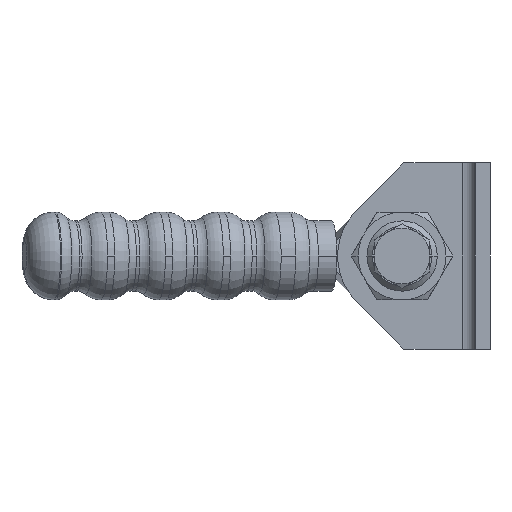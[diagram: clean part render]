
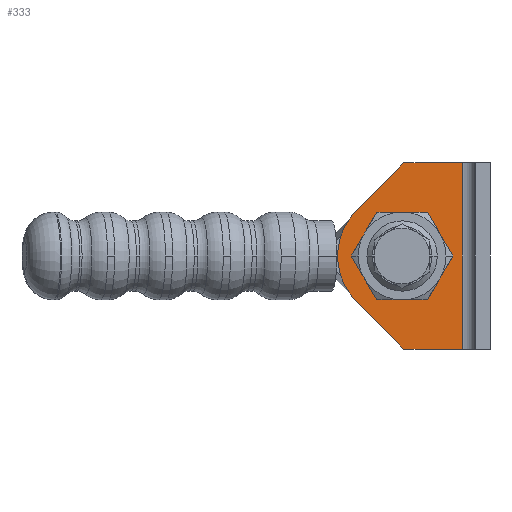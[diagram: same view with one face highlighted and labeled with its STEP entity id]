
A CAD part, left-side view. The second image highlights one B-rep face of the part: STEP entity #333.
In plain terms, the highlighted planar face has unit normal (-1, 0, 0).
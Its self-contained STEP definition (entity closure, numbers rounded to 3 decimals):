
#333 = ADVANCED_FACE( '', ( #703, #704 ), #705, .F. );
#703 = FACE_OUTER_BOUND( '', #1455, .T. );
#704 = FACE_BOUND( '', #1456, .T. );
#705 = PLANE( '', #1457 );
#1455 = EDGE_LOOP( '', ( #2314, #2315, #2316, #2317, #2318, #2319 ) );
#1456 = EDGE_LOOP( '', ( #2320, #2321 ) );
#1457 = AXIS2_PLACEMENT_3D( '', #2322, #2323, #2324 );
#2314 = ORIENTED_EDGE( '', *, *, #4970, .F. );
#2315 = ORIENTED_EDGE( '', *, *, #4971, .F. );
#2316 = ORIENTED_EDGE( '', *, *, #4959, .F. );
#2317 = ORIENTED_EDGE( '', *, *, #4963, .F. );
#2318 = ORIENTED_EDGE( '', *, *, #4966, .F. );
#2319 = ORIENTED_EDGE( '', *, *, #4972, .F. );
#2320 = ORIENTED_EDGE( '', *, *, #4956, .T. );
#2321 = ORIENTED_EDGE( '', *, *, #4918, .T. );
#2322 = CARTESIAN_POINT( '', ( 0., 0., 0. ) );
#2323 = DIRECTION( '', ( 1., 0., 0. ) );
#2324 = DIRECTION( '', ( 0., 0., -1. ) );
#4918 = EDGE_CURVE( '', #5810, #5807, #5811, .T. );
#4956 = EDGE_CURVE( '', #5807, #5810, #5874, .T. );
#4959 = EDGE_CURVE( '', #5878, #5880, #5881, .T. );
#4963 = EDGE_CURVE( '', #5885, #5878, #5887, .T. );
#4966 = EDGE_CURVE( '', #5890, #5885, #5892, .T. );
#4970 = EDGE_CURVE( '', #5898, #5899, #5900, .T. );
#4971 = EDGE_CURVE( '', #5880, #5898, #5901, .T. );
#4972 = EDGE_CURVE( '', #5899, #5890, #5902, .T. );
#5807 = VERTEX_POINT( '', #7208 );
#5810 = VERTEX_POINT( '', #7212 );
#5811 = CIRCLE( '', #7213, 12.7 );
#5874 = CIRCLE( '', #7303, 12.7 );
#5878 = VERTEX_POINT( '', #7308 );
#5880 = VERTEX_POINT( '', #7311 );
#5881 = LINE( '', #7312, #7313 );
#5885 = VERTEX_POINT( '', #7318 );
#5887 = CIRCLE( '', #7321, 22. );
#5890 = VERTEX_POINT( '', #7325 );
#5892 = LINE( '', #7328, #7329 );
#5898 = VERTEX_POINT( '', #7338 );
#5899 = VERTEX_POINT( '', #7339 );
#5900 = LINE( '', #7340, #7341 );
#5901 = LINE( '', #7342, #7343 );
#5902 = LINE( '', #7344, #7345 );
#7208 = CARTESIAN_POINT( '', ( 0., 0., -12.7 ) );
#7212 = CARTESIAN_POINT( '', ( 0., 0., 12.7 ) );
#7213 = AXIS2_PLACEMENT_3D( '', #9974, #9975, #9976 );
#7303 = AXIS2_PLACEMENT_3D( '', #10034, #10035, #10036 );
#7308 = CARTESIAN_POINT( '', ( 0., 15.556, 15.556 ) );
#7311 = CARTESIAN_POINT( '', ( 0., -0.637, 31.75 ) );
#7312 = CARTESIAN_POINT( '', ( 0., 15.556, 15.556 ) );
#7313 = VECTOR( '', #10039, 1. );
#7318 = CARTESIAN_POINT( '', ( 0., 15.556, -15.556 ) );
#7321 = AXIS2_PLACEMENT_3D( '', #10045, #10046, #10047 );
#7325 = CARTESIAN_POINT( '', ( 0., -0.637, -31.75 ) );
#7328 = CARTESIAN_POINT( '', ( 0., -0.637, -31.75 ) );
#7329 = VECTOR( '', #10050, 1. );
#7338 = CARTESIAN_POINT( '', ( 0., -20.5, 31.75 ) );
#7339 = CARTESIAN_POINT( '', ( 0., -20.5, -31.75 ) );
#7340 = CARTESIAN_POINT( '', ( 0., -20.5, 31.75 ) );
#7341 = VECTOR( '', #10054, 1. );
#7342 = CARTESIAN_POINT( '', ( 0., -0.637, 31.75 ) );
#7343 = VECTOR( '', #10055, 1. );
#7344 = CARTESIAN_POINT( '', ( 0., -20.5, -31.75 ) );
#7345 = VECTOR( '', #10056, 1. );
#9974 = CARTESIAN_POINT( '', ( 0., 0., 0. ) );
#9975 = DIRECTION( '', ( 1., 0., 0. ) );
#9976 = DIRECTION( '', ( 0., 0., -1. ) );
#10034 = CARTESIAN_POINT( '', ( 0., 0., 0. ) );
#10035 = DIRECTION( '', ( 1., 0., 0. ) );
#10036 = DIRECTION( '', ( 0., 0., -1. ) );
#10039 = DIRECTION( '', ( 0., -0.707, 0.707 ) );
#10045 = CARTESIAN_POINT( '', ( 0., 0., 0. ) );
#10046 = DIRECTION( '', ( 1., 0., 0. ) );
#10047 = DIRECTION( '', ( 0., 0.707, -0.707 ) );
#10050 = DIRECTION( '', ( 0., 0.707, 0.707 ) );
#10054 = DIRECTION( '', ( 0., 0., -1. ) );
#10055 = DIRECTION( '', ( 0., -1., 0. ) );
#10056 = DIRECTION( '', ( 0., 1., 0. ) );
